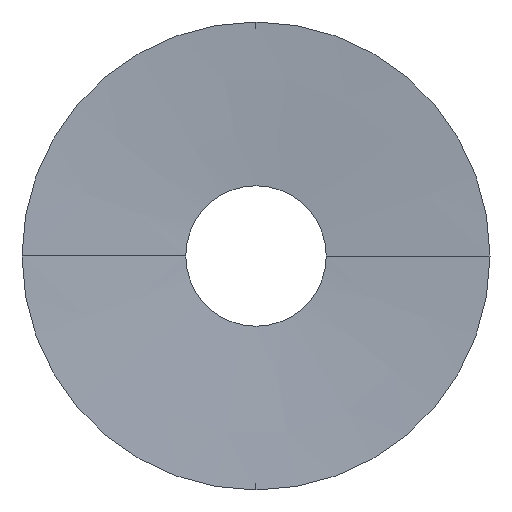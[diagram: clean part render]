
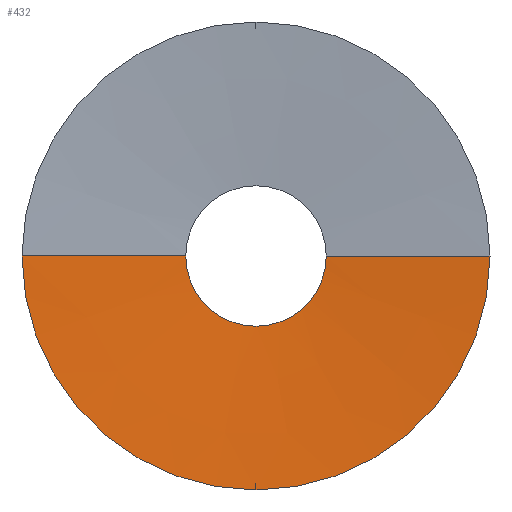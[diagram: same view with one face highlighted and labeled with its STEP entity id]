
A CAD part, left-side view. The second image highlights one B-rep face of the part: STEP entity #432.
In plain terms, the highlighted conical face has half-angle 85.914 degrees and reference radius 1.5 mm.
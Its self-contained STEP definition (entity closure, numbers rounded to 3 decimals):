
#4 = DIRECTION ( 'NONE',  ( -1., 0., 0. ) ) ;
#10 = ORIENTED_EDGE ( 'NONE', *, *, #863, .F. ) ;
#15 = DIRECTION ( 'NONE',  ( -1., 0., 0. ) ) ;
#29 = VERTEX_POINT ( 'NONE', #983 ) ;
#54 = EDGE_CURVE ( 'NONE', #115, #29, #780, .T. ) ;
#55 = CARTESIAN_POINT ( 'NONE',  ( 0.316, 1.5, 0. ) ) ;
#68 = VERTEX_POINT ( 'NONE', #935 ) ;
#115 = VERTEX_POINT ( 'NONE', #55 ) ;
#122 = CARTESIAN_POINT ( 'NONE',  ( 0.066, 0., 0. ) ) ;
#124 = EDGE_LOOP ( 'NONE', ( #10, #1031, #279, #552, #650, #1146 ) ) ;
#147 = FACE_OUTER_BOUND ( 'NONE', #124, .T. ) ;
#156 = AXIS2_PLACEMENT_3D ( 'NONE', #1158, #1038, #706 ) ;
#160 = DIRECTION ( 'NONE',  ( -0.071, 0.997, 0. ) ) ;
#173 = CIRCLE ( 'NONE', #156, 1.5 ) ;
#253 = DIRECTION ( 'NONE',  ( -1., 0., 0. ) ) ;
#279 = ORIENTED_EDGE ( 'NONE', *, *, #1075, .T. ) ;
#287 = AXIS2_PLACEMENT_3D ( 'NONE', #320, #659, #921 ) ;
#307 = EDGE_CURVE ( 'NONE', #1126, #350, #173, .T. ) ;
#311 = VERTEX_POINT ( 'NONE', #637 ) ;
#320 = CARTESIAN_POINT ( 'NONE',  ( 0.316, 0., 0. ) ) ;
#350 = VERTEX_POINT ( 'NONE', #713 ) ;
#420 = CARTESIAN_POINT ( 'NONE',  ( 0.316, 0., 0. ) ) ;
#422 = DIRECTION ( 'NONE',  ( 0., 0., 1. ) ) ;
#432 = ADVANCED_FACE ( 'NONE', ( #147 ), #1055, .F. ) ;
#452 = CARTESIAN_POINT ( 'NONE',  ( 0.316, 1.5, 0. ) ) ;
#497 = EDGE_CURVE ( 'NONE', #68, #311, #838, .T. ) ;
#537 = AXIS2_PLACEMENT_3D ( 'NONE', #420, #253, #582 ) ;
#552 = ORIENTED_EDGE ( 'NONE', *, *, #497, .T. ) ;
#582 = DIRECTION ( 'NONE',  ( 0., 0., 1. ) ) ;
#624 = CARTESIAN_POINT ( 'NONE',  ( 0.066, 0., 0. ) ) ;
#637 = CARTESIAN_POINT ( 'NONE',  ( 0.066, -5., 0. ) ) ;
#646 = VECTOR ( 'NONE', #1048, 1000. ) ;
#650 = ORIENTED_EDGE ( 'NONE', *, *, #801, .F. ) ;
#659 = DIRECTION ( 'NONE',  ( -1., 0., 0. ) ) ;
#671 = LINE ( 'NONE', #1059, #646 ) ;
#706 = DIRECTION ( 'NONE',  ( 0., 0., 1. ) ) ;
#713 = CARTESIAN_POINT ( 'NONE',  ( 0.316, -1.5, 0. ) ) ;
#749 = VECTOR ( 'NONE', #160, 1000. ) ;
#780 = LINE ( 'NONE', #452, #749 ) ;
#801 = EDGE_CURVE ( 'NONE', #350, #311, #671, .T. ) ;
#838 = CIRCLE ( 'NONE', #1239, 5. ) ;
#840 = CIRCLE ( 'NONE', #537, 1.5 ) ;
#863 = EDGE_CURVE ( 'NONE', #115, #1126, #840, .T. ) ;
#921 = DIRECTION ( 'NONE',  ( 0., -1., 0. ) ) ;
#935 = CARTESIAN_POINT ( 'NONE',  ( 0.066, 0., -5. ) ) ;
#983 = CARTESIAN_POINT ( 'NONE',  ( 0.066, 5., 0. ) ) ;
#984 = CARTESIAN_POINT ( 'NONE',  ( 0.316, 0., -1.5 ) ) ;
#989 = AXIS2_PLACEMENT_3D ( 'NONE', #624, #15, #422 ) ;
#1031 = ORIENTED_EDGE ( 'NONE', *, *, #54, .T. ) ;
#1038 = DIRECTION ( 'NONE',  ( -1., 0., 0. ) ) ;
#1048 = DIRECTION ( 'NONE',  ( -0.071, -0.997, 0. ) ) ;
#1055 = CONICAL_SURFACE ( 'NONE', #287, 1.5, 1.499 ) ;
#1059 = CARTESIAN_POINT ( 'NONE',  ( 0.316, -1.5, 0. ) ) ;
#1075 = EDGE_CURVE ( 'NONE', #29, #68, #1137, .T. ) ;
#1120 = DIRECTION ( 'NONE',  ( 0., 0., 1. ) ) ;
#1126 = VERTEX_POINT ( 'NONE', #984 ) ;
#1137 = CIRCLE ( 'NONE', #989, 5. ) ;
#1146 = ORIENTED_EDGE ( 'NONE', *, *, #307, .F. ) ;
#1158 = CARTESIAN_POINT ( 'NONE',  ( 0.316, 0., 0. ) ) ;
#1239 = AXIS2_PLACEMENT_3D ( 'NONE', #122, #4, #1120 ) ;
